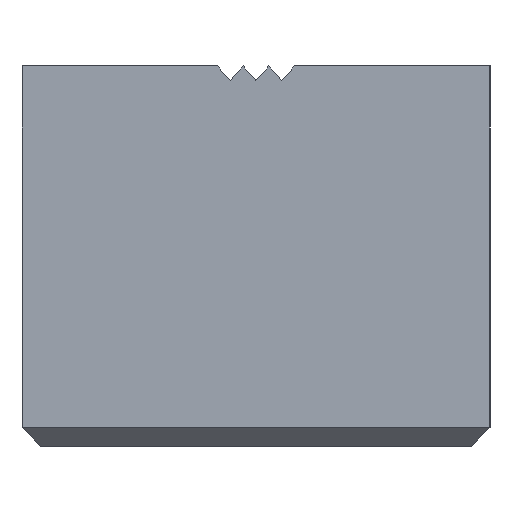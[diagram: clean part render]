
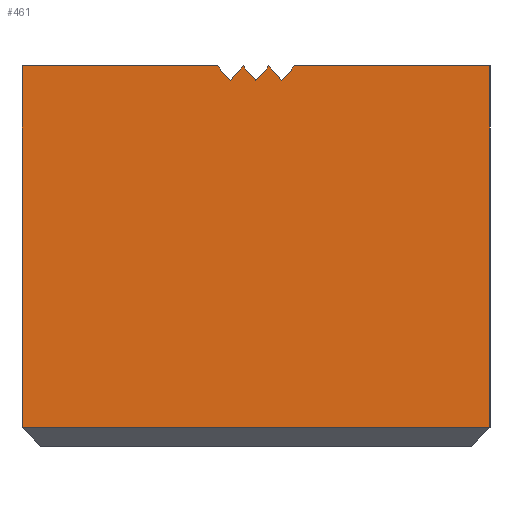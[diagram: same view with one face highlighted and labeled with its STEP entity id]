
A CAD part, left-side view. The second image highlights one B-rep face of the part: STEP entity #461.
In plain terms, the highlighted planar face has unit normal (-1, 0, 0).
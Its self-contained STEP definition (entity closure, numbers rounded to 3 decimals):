
#318=CARTESIAN_POINT('',(-4.765,0.885,6.745));
#319=VERTEX_POINT('',#318);
#320=CARTESIAN_POINT('',(-4.765,1.235,7.145));
#321=VERTEX_POINT('',#320);
#322=CARTESIAN_POINT('',(-4.765,0.885,6.745));
#323=DIRECTION('',(0.0,0.659,0.753));
#324=VECTOR('',#323,0.532);
#325=LINE('',#322,#324);
#326=EDGE_CURVE('',#319,#321,#325,.T.);
#356=CARTESIAN_POINT('',(-4.765,0.535,7.145));
#357=VERTEX_POINT('',#356);
#358=CARTESIAN_POINT('',(-4.765,0.535,7.145));
#359=DIRECTION('',(0.0,0.659,-0.753));
#360=VECTOR('',#359,0.532);
#361=LINE('',#358,#360);
#362=EDGE_CURVE('',#357,#319,#361,.T.);
#382=CARTESIAN_POINT('',(-4.765,-4.765,-3.175));
#383=DIRECTION('',(-1.0,0.0,0.0));
#384=DIRECTION('',(0.0,0.0,1.0));
#385=AXIS2_PLACEMENT_3D('',#382,#383,#384);
#386=PLANE('',#385);
#387=ORIENTED_EDGE('',*,*,#362,.T.);
#388=ORIENTED_EDGE('',*,*,#326,.T.);
#389=CARTESIAN_POINT('',(-4.765,1.585,6.745));
#390=VERTEX_POINT('',#389);
#391=CARTESIAN_POINT('',(-4.765,1.235,7.145));
#392=DIRECTION('',(0.0,0.659,-0.753));
#393=VECTOR('',#392,0.532);
#394=LINE('',#391,#393);
#395=EDGE_CURVE('',#321,#390,#394,.T.);
#396=ORIENTED_EDGE('',*,*,#395,.T.);
#397=CARTESIAN_POINT('',(-4.765,1.935,7.145));
#398=VERTEX_POINT('',#397);
#399=CARTESIAN_POINT('',(-4.765,1.585,6.745));
#400=DIRECTION('',(0.0,0.659,0.753));
#401=VECTOR('',#400,0.532);
#402=LINE('',#399,#401);
#403=EDGE_CURVE('',#390,#398,#402,.T.);
#404=ORIENTED_EDGE('',*,*,#403,.T.);
#405=CARTESIAN_POINT('',(-4.765,2.285,6.745));
#406=VERTEX_POINT('',#405);
#407=CARTESIAN_POINT('',(-4.765,1.935,7.145));
#408=DIRECTION('',(0.0,0.659,-0.753));
#409=VECTOR('',#408,0.532);
#410=LINE('',#407,#409);
#411=EDGE_CURVE('',#398,#406,#410,.T.);
#412=ORIENTED_EDGE('',*,*,#411,.T.);
#413=CARTESIAN_POINT('',(-4.765,2.635,7.145));
#414=VERTEX_POINT('',#413);
#415=CARTESIAN_POINT('',(-4.765,2.285,6.745));
#416=DIRECTION('',(0.0,0.659,0.753));
#417=VECTOR('',#416,0.532);
#418=LINE('',#415,#417);
#419=EDGE_CURVE('',#406,#414,#418,.T.);
#420=ORIENTED_EDGE('',*,*,#419,.T.);
#421=CARTESIAN_POINT('',(-4.765,7.935,7.145));
#422=VERTEX_POINT('',#421);
#423=CARTESIAN_POINT('',(-4.765,2.635,7.145));
#424=DIRECTION('',(0.0,1.0,0.0));
#425=VECTOR('',#424,5.3);
#426=LINE('',#423,#425);
#427=EDGE_CURVE('',#414,#422,#426,.T.);
#428=ORIENTED_EDGE('',*,*,#427,.T.);
#429=CARTESIAN_POINT('',(-4.765,7.935,-2.675));
#430=VERTEX_POINT('',#429);
#431=CARTESIAN_POINT('',(-4.765,7.935,-2.675));
#432=DIRECTION('',(0.0,0.0,1.0));
#433=VECTOR('',#432,9.82);
#434=LINE('',#431,#433);
#435=EDGE_CURVE('',#430,#422,#434,.T.);
#436=ORIENTED_EDGE('',*,*,#435,.F.);
#437=CARTESIAN_POINT('',(-4.765,-4.765,-2.675));
#438=VERTEX_POINT('',#437);
#439=CARTESIAN_POINT('',(-4.765,-4.765,-2.675));
#440=DIRECTION('',(0.0,1.0,0.0));
#441=VECTOR('',#440,12.7);
#442=LINE('',#439,#441);
#443=EDGE_CURVE('',#438,#430,#442,.T.);
#444=ORIENTED_EDGE('',*,*,#443,.F.);
#445=CARTESIAN_POINT('',(-4.765,-4.765,7.145));
#446=VERTEX_POINT('',#445);
#447=CARTESIAN_POINT('',(-4.765,-4.765,-2.675));
#448=DIRECTION('',(0.0,0.0,1.0));
#449=VECTOR('',#448,9.82);
#450=LINE('',#447,#449);
#451=EDGE_CURVE('',#438,#446,#450,.T.);
#452=ORIENTED_EDGE('',*,*,#451,.T.);
#453=CARTESIAN_POINT('',(-4.765,-4.765,7.145));
#454=DIRECTION('',(0.0,1.0,0.0));
#455=VECTOR('',#454,5.3);
#456=LINE('',#453,#455);
#457=EDGE_CURVE('',#446,#357,#456,.T.);
#458=ORIENTED_EDGE('',*,*,#457,.T.);
#459=EDGE_LOOP('',(#387,#388,#396,#404,#412,#420,#428,#436,#444,#452,#458));
#460=FACE_OUTER_BOUND('',#459,.T.);
#461=ADVANCED_FACE('',(#460),#386,.T.);
